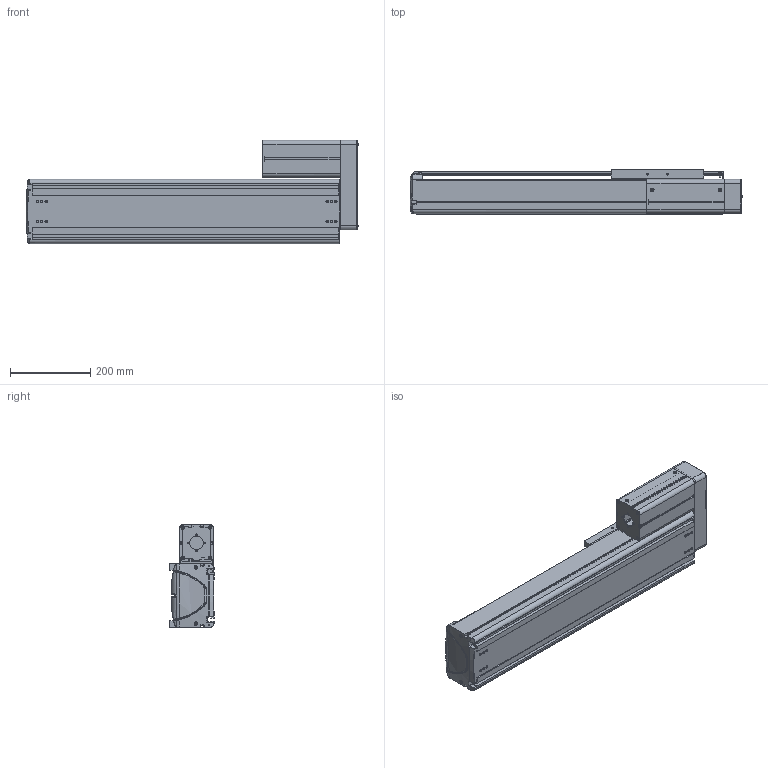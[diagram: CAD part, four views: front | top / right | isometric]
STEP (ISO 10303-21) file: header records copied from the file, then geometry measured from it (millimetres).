
FILE_DESCRIPTION((''),'2;1');
FILE_NAME('BE50F-UR-L_B-45_IGS_PRT','2017-06-18T',(' '),(''),'PRO/ENGINEER BY PARAMETRIC TECHNOLOGY CORPORATION, 2015030','PRO/ENGINEER BY PARAMETRIC TECHNOLOGY CORPORATION, 2015030','');
FILE_SCHEMA(('CONFIG_CONTROL_DESIGN'));
Length unit declared in the file: millimetre
Products named in the file (1): BE50F-UR-L_B-45_IGS_PRT
Bounding box: 825.88 x 110 x 257 mm (x, y, z)
Volume: 4319445.3 mm3; surface area: 1587111.6 mm2
Topology: 2 solids, 119 shells, 2171 faces, 5881 edges, 3829 vertices
Faces by surface type: plane 1004, cylinder 905, cone 123, torus 59, bspline 48, sphere 32
Entity records: 71516 total; most frequent: CARTESIAN_POINT 16172, DIRECTION 11630, ORIENTED_EDGE 11232, EDGE_CURVE 5836, AXIS2_PLACEMENT_3D 4137, VERTEX_POINT 3828, VECTOR 3356, LINE 3356
